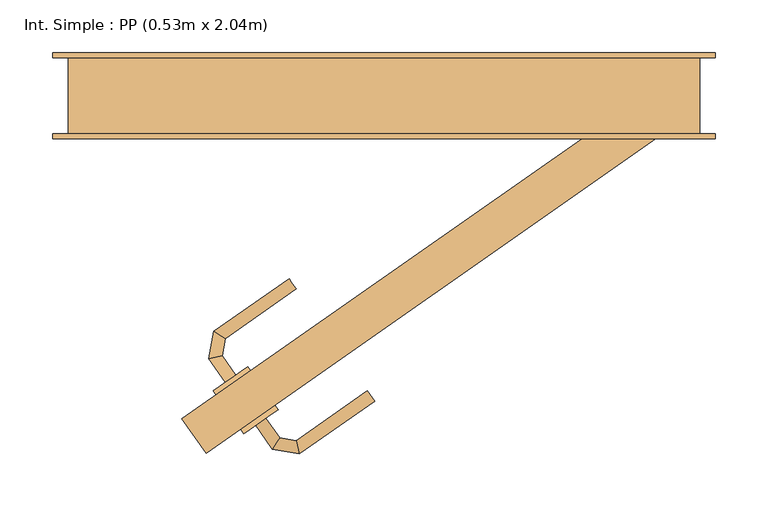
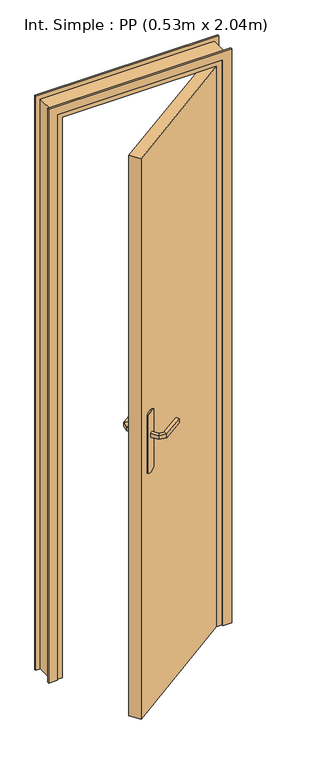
"""IFC4 building model written with IfcOpenShell, lengths in millimetres: door geometry, Int. Simple : PP (0.53m x 2.04m)."""

from ifc_helpers import new_model, si_unit, point, frame, frame_2d, origin, origin_with_axes, place, context, project, spatial, polyline, circle_curve, ellipse_curve, trimmed, segment, composite_curve, outline, extrude, faceted_brep, source, transform, mapped, element, save
from ifc_brep_helpers import plane_surface, cylinder_surface, advanced_brep


def int_simple_pp_0_53m_x_2_04m_9d17cb83(model_context):
    return source(origin(), model_context, "Body", "SolidModel", [
        extrude(outline(composite_curve([segment(trimmed(circle_curve(frame_2d((0.0, -39.9999999)), 40.0), [point((-34.6410162, -59.9999999))], [point((-34.6410162, -19.9999999))], False, "CARTESIAN"), True, "CONTINUOUS"), segment(polyline([(-34.6410162, -19.9999999), (175.3589838, -19.9999999)]), True, "CONTINUOUS"), segment(trimmed(circle_curve(frame_2d((140.7179676, -39.9999999)), 40.0), [point((175.3589838, -19.9999999))], [point((175.3589838, -59.9999999))], False, "CARTESIAN"), True, "CONTINUOUS"), segment(polyline([(175.3589838, -59.9999999), (-34.6410162, -59.9999999)]), True, "CONTINUOUS")], self_intersect=False)), frame((-119.3674969, -286.7336279, 904.6410162), z_axis=(-0.5735764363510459, 0.8191520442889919, 0.0), x_axis=(0.0, 0.0, 1.0)), (0.0, 0.0, 1.0), 5.0),
        extrude(outline(composite_curve([segment(trimmed(circle_curve(frame_2d((0.0, -40.0)), 40.0), [point((34.6410162, -20.0))], [point((34.6410162, -60.0))], False, "CARTESIAN"), True, "CONTINUOUS"), segment(polyline([(34.6410162, -60.0), (-175.3589838, -60.0)]), True, "CONTINUOUS"), segment(trimmed(circle_curve(frame_2d((-140.7179676, -40.0)), 40.0), [point((-175.3589838, -60.0))], [point((-175.3589838, -20.0))], False, "CARTESIAN"), True, "CONTINUOUS"), segment(polyline([(-175.3589838, -20.0), (34.6410162, -20.0)]), True, "CONTINUOUS")], self_intersect=False)), frame((-145.1784365, -249.8717859, 1045.3589838), z_axis=(-0.5735764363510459, 0.8191520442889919, 0.0), x_axis=(0.0, 0.0, 1.0)), (0.0, 0.0, 1.0), 5.0),
        advanced_brep(
        [(-157.0484909, -313.1181439, 1007.0), (-147.2186664, -306.2352267, 1007.0), (-147.2186664, -306.2352267, 993.0), (-157.0484909, -313.1181439, 993.0), (-141.1885571, -335.7684767, 1007.0), (-134.2097303, -324.8139128, 1007.0), (-134.2097303, -324.8139128, 993.0), (-141.1885571, -335.7684767, 993.0), (-115.5940934, -340.2814712, 1007.0), (-118.405364, -327.600649, 1007.0), (-118.405364, -327.600649, 993.0), (-115.5940934, -340.2814712, 993.0), (-43.8024363, -290.0124118, 1007.0), (-43.8024363, -290.0124118, 993.0), (-50.6853536, -280.1825872, 993.0), (-50.6853536, -280.1825872, 1007.0)],
        [
            (0, 1, circle_curve(frame((-152.1335786, -309.6766853, 986.9542278), z_axis=(-0.5735764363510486, 0.81915204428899, 0.0), x_axis=(0.81915204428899, 0.5735764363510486, 0.0)), 20.9244589)),
            (1, 2),
            (2, 3, circle_curve(frame((-152.1335786, -309.6766853, 1013.0457722), z_axis=(-0.5735764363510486, 0.81915204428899, 0.0), x_axis=(0.81915204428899, 0.5735764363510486, 0.0)), 20.9244589)),
            (3, 0),
            (0, 4),
            (4, 5, ellipse_curve(frame((-137.6991437, -330.2911948, 986.9542278), z_axis=(-0.8433914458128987, 0.5372996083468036, 0.0), x_axis=(0.5372996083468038, 0.8433914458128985, 0.0)), 22.6484711, 20.9244589)),
            (5, 1),
            (5, 6),
            (6, 2),
            (6, 7, ellipse_curve(frame((-137.6991437, -330.2911948, 1013.0457722), z_axis=(-0.8433914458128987, 0.5372996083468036, 0.0), x_axis=(0.5372996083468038, 0.8433914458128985, 0.0)), 22.6484711, 20.9244589)),
            (7, 3),
            (7, 4),
            (4, 8),
            (8, 9, ellipse_curve(frame((-116.9997287, -333.9410601, 986.9542278), z_axis=(-0.976296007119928, -0.21643961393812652, 0.0), x_axis=(-0.2164396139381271, 0.976296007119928, 0.0)), 22.6484711, 20.9244589)),
            (9, 5),
            (9, 10),
            (10, 6),
            (10, 11, ellipse_curve(frame((-116.9997287, -333.9410601, 1013.0457722), z_axis=(-0.976296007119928, -0.21643961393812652, 0.0), x_axis=(-0.2164396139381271, 0.976296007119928, 0.0)), 22.6484711, 20.9244589)),
            (11, 7),
            (11, 8),
            (12, 13),
            (13, 14, circle_curve(frame((-47.243895, -285.0974995, 1013.0457722), z_axis=(0.8191520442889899, 0.5735764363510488, 0.0), x_axis=(-0.5735764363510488, 0.8191520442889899, 0.0)), 20.9244589)),
            (14, 15),
            (15, 12, circle_curve(frame((-47.243895, -285.0974995, 986.9542278), z_axis=(0.8191520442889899, 0.5735764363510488, 0.0), x_axis=(-0.5735764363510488, 0.8191520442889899, 0.0)), 20.9244589)),
            (8, 12),
            (15, 9),
            (14, 10),
            (13, 11),
        ],
        [
            plane_surface(frame((-159.6857873, -314.9647988, 1000.0), z_axis=(-0.5735764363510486, 0.81915204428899, 0.0), x_axis=(0.0, 0.0, -1.0))),
            cylinder_surface(frame((-152.1335786, -309.6766853, 986.9542278), z_axis=(-0.5735764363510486, 0.81915204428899, 0.0), x_axis=(0.81915204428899, 0.5735764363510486, 0.0)), 20.9244589),
            plane_surface(frame((-147.2186664, -306.2352267, 1007.0), z_axis=(0.81915204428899, 0.5735764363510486, 0.0), x_axis=(0.5735764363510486, -0.81915204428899, 0.0))),
            cylinder_surface(frame((-152.1335786, -309.6766853, 1013.0457722), z_axis=(-0.5735764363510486, 0.81915204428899, 0.0), x_axis=(0.81915204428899, 0.5735764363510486, 0.0)), 20.9244589),
            plane_surface(frame((-157.0484909, -313.1181439, 993.0), z_axis=(-0.81915204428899, -0.5735764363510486, 0.0), x_axis=(0.5735764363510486, -0.81915204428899, 0.0))),
            cylinder_surface(frame((-137.6991437, -330.2911948, 986.9542278), z_axis=(-0.9848077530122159, 0.1736481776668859, 0.0), x_axis=(0.1736481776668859, 0.9848077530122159, 0.0)), 20.9244589),
            plane_surface(frame((-134.2097303, -324.8139128, 1007.0), z_axis=(0.17364817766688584, 0.9848077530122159, 0.0), x_axis=(0.9848077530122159, -0.17364817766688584, 0.0))),
            cylinder_surface(frame((-137.6991437, -330.2911948, 1013.0457722), z_axis=(-0.9848077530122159, 0.1736481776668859, 0.0), x_axis=(0.1736481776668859, 0.9848077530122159, 0.0)), 20.9244589),
            plane_surface(frame((-141.1885571, -335.7684767, 993.0), z_axis=(-0.17364817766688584, -0.9848077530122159, 0.0), x_axis=(0.9848077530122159, -0.17364817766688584, 0.0))),
            plane_surface(frame((-47.243895, -285.0974995, 990.7804555), z_axis=(0.81915204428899, 0.5735764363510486, 0.0), x_axis=(-0.5735764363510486, 0.81915204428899, 0.0))),
            cylinder_surface(frame((-116.9997287, -333.9410601, 986.9542278), z_axis=(-0.8191520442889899, -0.5735764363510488, 0.0), x_axis=(-0.5735764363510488, 0.8191520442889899, 0.0)), 20.9244589),
            plane_surface(frame((-118.405364, -327.600649, 1007.0), z_axis=(-0.5735764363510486, 0.81915204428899, 0.0), x_axis=(0.81915204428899, 0.5735764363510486, 0.0))),
            cylinder_surface(frame((-116.9997287, -333.9410601, 1013.0457722), z_axis=(-0.8191520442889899, -0.5735764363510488, 0.0), x_axis=(-0.5735764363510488, 0.8191520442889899, 0.0)), 20.9244589),
            plane_surface(frame((-115.5940934, -340.2814712, 993.0), z_axis=(0.5735764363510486, -0.81915204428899, 0.0), x_axis=(0.81915204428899, 0.5735764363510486, 0.0))),
        ],
        [
            (0, [[1, 2, 3, 4]]),
            (1, [[-1, 5, 6, 7]]),
            (2, [[-2, -7, 8, 9]]),
            (3, [[-3, -9, 10, 11]]),
            (4, [[-4, -11, 12, -5]]),
            (5, [[-6, 13, 14, 15]]),
            (6, [[-8, -15, 16, 17]]),
            (7, [[-10, -17, 18, 19]]),
            (8, [[-12, -19, 20, -13]]),
            (9, [[21, 22, 23, 24]]),
            (10, [[-14, 25, -24, 26]]),
            (11, [[-16, -26, -23, 27]]),
            (12, [[-18, -27, -22, 28]]),
            (13, [[-20, -28, -21, -25]]),
        ],
    ),
        advanced_brep(
        [(-175.8974882, -265.2776245, 993.0), (-175.8974882, -265.2776245, 1007.0), (-185.7273127, -272.1605417, 1007.0), (-185.7273127, -272.1605417, 993.0), (-188.7944717, -246.8588232, 993.0), (-188.7944717, -246.8588232, 1007.0), (-201.4752939, -249.6700938, 1007.0), (-201.4752939, -249.6700938, 993.0), (-185.9739667, -230.8629448, 993.0), (-185.9739667, -230.8629448, 1007.0), (-196.9285306, -223.8841179, 1007.0), (-196.9285306, -223.8841179, 993.0), (-118.3443625, -183.5081861, 993.0), (-125.2272797, -173.6783615, 993.0), (-125.2272797, -173.6783615, 1007.0), (-118.3443625, -183.5081861, 1007.0)],
        [
            (0, 1),
            (1, 2, circle_curve(frame((-180.8124005, -268.7190831, 986.9542278), z_axis=(0.5735764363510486, -0.81915204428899, 0.0), x_axis=(-0.81915204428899, -0.5735764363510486, 0.0)), 20.9244589)),
            (2, 3),
            (3, 0, circle_curve(frame((-180.8124005, -268.7190831, 1013.0457722), z_axis=(0.5735764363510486, -0.81915204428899, 0.0), x_axis=(-0.81915204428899, -0.5735764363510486, 0.0)), 20.9244589)),
            (0, 4),
            (4, 5),
            (5, 1),
            (5, 6, ellipse_curve(frame((-195.1348828, -248.2644585, 986.9542278), z_axis=(0.2164396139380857, -0.9762960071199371, 0.0), x_axis=(0.9762960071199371, 0.21643961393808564, 0.0)), 22.6484711, 20.9244589)),
            (6, 2),
            (6, 7),
            (7, 3),
            (7, 4, ellipse_curve(frame((-195.1348828, -248.2644585, 1013.0457722), z_axis=(0.2164396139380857, -0.9762960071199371, 0.0), x_axis=(0.9762960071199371, 0.21643961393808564, 0.0)), 22.6484711, 20.9244589)),
            (4, 8),
            (8, 9),
            (9, 5),
            (9, 10, ellipse_curve(frame((-191.4512486, -227.3735313, 986.9542278), z_axis=(-0.5372996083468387, -0.8433914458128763, 0.0), x_axis=(0.8433914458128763, -0.5372996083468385, 0.0)), 22.6484711, 20.9244589)),
            (10, 6),
            (10, 11),
            (11, 7),
            (11, 8, ellipse_curve(frame((-191.4512486, -227.3735313, 1013.0457722), z_axis=(-0.5372996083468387, -0.8433914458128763, 0.0), x_axis=(0.8433914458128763, -0.5372996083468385, 0.0)), 22.6484711, 20.9244589)),
            (12, 13, circle_curve(frame((-121.7858211, -178.5932738, 1013.0457722), z_axis=(0.81915204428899, 0.5735764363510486, 0.0), x_axis=(-0.5735764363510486, 0.81915204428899, 0.0)), 20.9244589)),
            (13, 14),
            (14, 15, circle_curve(frame((-121.7858211, -178.5932738, 986.9542278), z_axis=(0.81915204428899, 0.5735764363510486, 0.0), x_axis=(-0.5735764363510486, 0.81915204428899, 0.0)), 20.9244589)),
            (15, 12),
            (8, 12),
            (15, 9),
            (14, 10),
            (13, 11),
        ],
        [
            plane_surface(frame((-188.3646091, -274.0071965, 1000.0), z_axis=(0.5735764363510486, -0.81915204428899, 0.0), x_axis=(0.0, 0.0, 1.0))),
            plane_surface(frame((-175.8974882, -265.2776245, 993.0), z_axis=(0.81915204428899, 0.5735764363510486, 0.0), x_axis=(-0.5735764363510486, 0.81915204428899, 0.0))),
            cylinder_surface(frame((-180.8124005, -268.7190831, 986.9542278), z_axis=(0.5735764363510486, -0.81915204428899, 0.0), x_axis=(-0.81915204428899, -0.5735764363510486, 0.0)), 20.9244589),
            plane_surface(frame((-185.7273127, -272.1605417, 1007.0), z_axis=(-0.81915204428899, -0.5735764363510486, 0.0), x_axis=(-0.5735764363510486, 0.81915204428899, 0.0))),
            cylinder_surface(frame((-180.8124005, -268.7190831, 1013.0457722), z_axis=(0.5735764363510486, -0.81915204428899, 0.0), x_axis=(-0.81915204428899, -0.5735764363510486, 0.0)), 20.9244589),
            plane_surface(frame((-188.7944717, -246.8588232, 993.0), z_axis=(0.9848077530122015, -0.173648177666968, 0.0), x_axis=(0.173648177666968, 0.9848077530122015, 0.0))),
            cylinder_surface(frame((-195.1348828, -248.2644585, 986.9542278), z_axis=(-0.173648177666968, -0.9848077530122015, 0.0), x_axis=(-0.9848077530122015, 0.173648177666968, 0.0)), 20.9244589),
            plane_surface(frame((-201.4752939, -249.6700938, 1007.0), z_axis=(-0.9848077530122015, 0.17364817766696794, 0.0), x_axis=(0.17364817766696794, 0.9848077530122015, 0.0))),
            cylinder_surface(frame((-195.1348828, -248.2644585, 1013.0457722), z_axis=(-0.173648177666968, -0.9848077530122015, 0.0), x_axis=(-0.9848077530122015, 0.173648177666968, 0.0)), 20.9244589),
            plane_surface(frame((-121.7858211, -178.5932738, 990.7804555), z_axis=(0.81915204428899, 0.5735764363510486, 0.0), x_axis=(-0.5735764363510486, 0.81915204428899, 0.0))),
            plane_surface(frame((-185.9739667, -230.8629448, 993.0), z_axis=(0.5735764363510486, -0.81915204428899, 0.0), x_axis=(0.81915204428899, 0.5735764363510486, 0.0))),
            cylinder_surface(frame((-191.4512486, -227.3735313, 986.9542278), z_axis=(-0.81915204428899, -0.5735764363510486, 0.0), x_axis=(-0.5735764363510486, 0.81915204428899, 0.0)), 20.9244589),
            plane_surface(frame((-196.9285306, -223.8841179, 1007.0), z_axis=(-0.5735764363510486, 0.81915204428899, 0.0), x_axis=(0.81915204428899, 0.5735764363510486, 0.0))),
            cylinder_surface(frame((-191.4512486, -227.3735313, 1013.0457722), z_axis=(-0.81915204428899, -0.5735764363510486, 0.0), x_axis=(-0.5735764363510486, 0.81915204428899, 0.0)), 20.9244589),
        ],
        [
            (0, [[1, 2, 3, 4]]),
            (1, [[-1, 5, 6, 7]]),
            (2, [[-2, -7, 8, 9]]),
            (3, [[-3, -9, 10, 11]]),
            (4, [[-4, -11, 12, -5]]),
            (5, [[-6, 13, 14, 15]]),
            (6, [[-8, -15, 16, 17]]),
            (7, [[-10, -17, 18, 19]]),
            (8, [[-12, -19, 20, -13]]),
            (9, [[21, 22, 23, 24]]),
            (10, [[-14, 25, -24, 26]]),
            (11, [[-16, -26, -23, 27]]),
            (12, [[-18, -27, -22, 28]]),
            (13, [[-20, -28, -21, -25]]),
        ],
    ),
        extrude(outline(polyline([(-227.0936409, -307.2294295), (207.0569425, -3.2339182), (230.0, -36.0), (-204.1505835, -339.9955113), (-227.0936409, -307.2294295)])), origin_with_axes(), (0.0, 0.0, 1.0), 2040.0),
        faceted_brep([(-335.0, -36.0, 0.0), (-335.0, 36.0, 0.0), (-285.0, 36.0, 0.0), (-285.0, 4.0, 0.0), (-300.0, 4.0, 0.0), (-300.0, -36.0, 0.0), (-335.0, -36.0, 2075.0), (-335.0, 36.0, 2075.0), (265.0, 36.0, 2075.0), (265.0, 36.0, 0.0), (215.0, 36.0, 0.0), (215.0, 36.0, 2025.0), (-285.0, 36.0, 2025.0), (-285.0, 4.0, 2025.0), (215.0, 4.0, 2025.0), (215.0, 4.0, 0.0), (230.0, 4.0, 0.0), (230.0, 4.0, 2040.0), (-300.0, 4.0, 2040.0), (-300.0, -36.0, 2040.0), (230.0, -36.0, 2040.0), (230.0, -36.0, 0.0), (265.0, -36.0, 0.0), (265.0, -36.0, 2075.0)], [[[0, 1, 2, 3, 4, 5]], [[1, 0, 6, 7]], [[2, 1, 7, 8, 9, 10, 11, 12]], [[3, 2, 12, 13]], [[4, 3, 13, 14, 15, 16, 17, 18]], [[5, 4, 18, 19]], [[0, 5, 19, 20, 21, 22, 23, 6]], [[8, 23, 22, 9]], [[22, 21, 16, 15, 10, 9]], [[14, 11, 10, 15]], [[20, 17, 16, 21]], [[7, 6, 23, 8]], [[13, 12, 11, 14]], [[19, 18, 17, 20]]]),
        extrude(outline(polyline([(0.0, -350.0), (0.0, -320.0), (2060.0, -320.0), (2060.0, 250.0), (0.0, 250.0), (0.0, 280.0), (2090.0, 280.0), (2090.0, -350.0), (0.0, -350.0)])), frame((0.0, -41.0, 0.0), z_axis=(0.0, 1.0, 0.0), x_axis=(0.0, 0.0, 1.0)), (0.0, 0.0, 1.0), 5.0),
        extrude(outline(polyline([(0.0, -350.0), (0.0, -320.0), (2060.0, -320.0), (2060.0, 250.0), (0.0, 250.0), (0.0, 280.0), (2090.0, 280.0), (2090.0, -350.0), (0.0, -350.0)])), frame((0.0, 36.0, 0.0), z_axis=(0.0, 1.0, 0.0), x_axis=(0.0, 0.0, 1.0)), (0.0, 0.0, 1.0), 5.0),
    ])


if __name__ == "__main__":
    model = new_model("IFC4")
    model_context = context("Model", 3, world=origin())
    ifc_project = project(units=[si_unit("LENGTHUNIT", "METRE", prefix="MILLI")], contexts=[model_context])
    site = spatial("IfcSite", under=ifc_project)
    building = spatial("IfcBuilding", under=site)
    placement = place(None, origin())
    int_simple_pp_0_53m_x_2_04m_shape = int_simple_pp_0_53m_x_2_04m_9d17cb83(model_context)
    element("IfcDoor", 1, ObjectType="Int. Simple : PP (0.53m x 2.04m)", at=placement, inside=building, context=model_context, shape_type="MappedRepresentation", body=[
        mapped(int_simple_pp_0_53m_x_2_04m_shape, transform((0.0, 0.0, 0.0), x_axis=(1.0, 0.0, 0.0), y_axis=(0.0, 1.0, 0.0), z_axis=(0.0, 0.0, 1.0))),
    ])
    save(model, "model.ifc")
